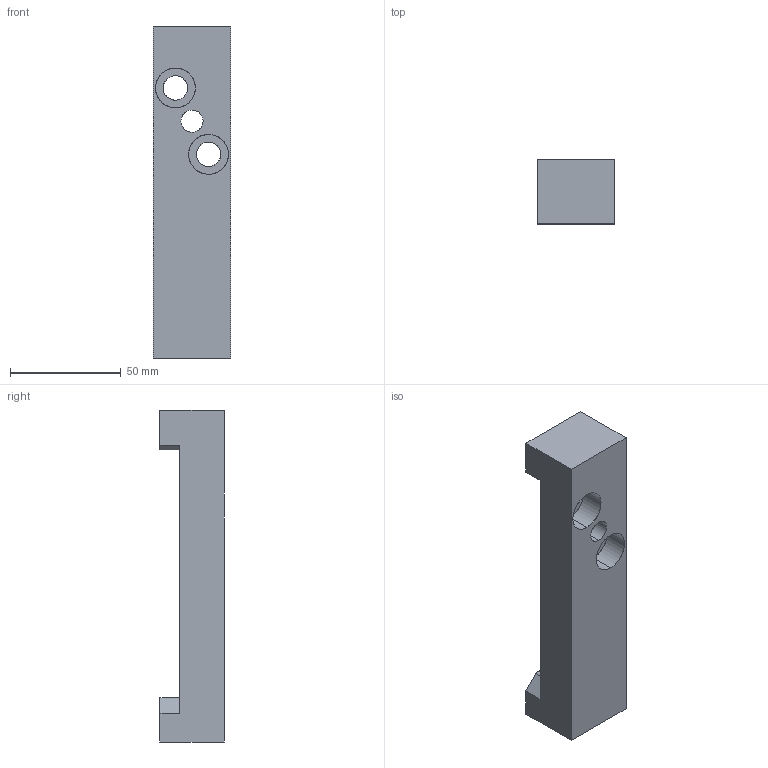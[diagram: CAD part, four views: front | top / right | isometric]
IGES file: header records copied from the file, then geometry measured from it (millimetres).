
Start section: START RECORD GO HERE.
Global section: file name: 785-035.igs; native system: DASSAULT SYSTEMES CATIA V5 R20 - www.3ds.com; preprocessor: CATIA Version 5 Release 20 ; author: Utente; organization: NB04-ASUS; date: 20201027.203704; units: millimetre
Bounding box: 35 x 29 x 150 mm (x, y, z)
Surface area: 21704.8 mm2 (no closed solid volume)
Topology: 0 solids, 0 shells, 28 faces, 144 edges, 144 vertices
Faces by surface type: plane 16, revolution 12
